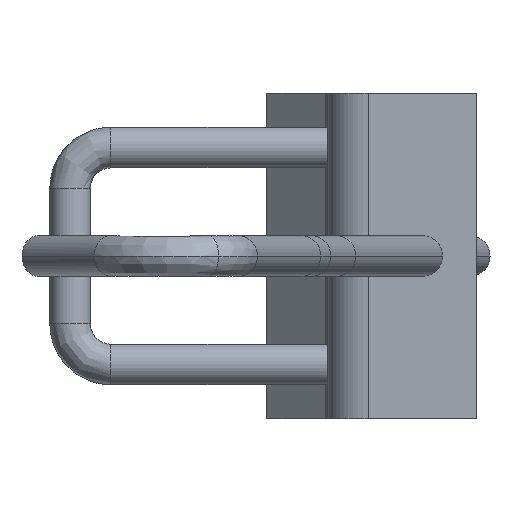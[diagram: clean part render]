
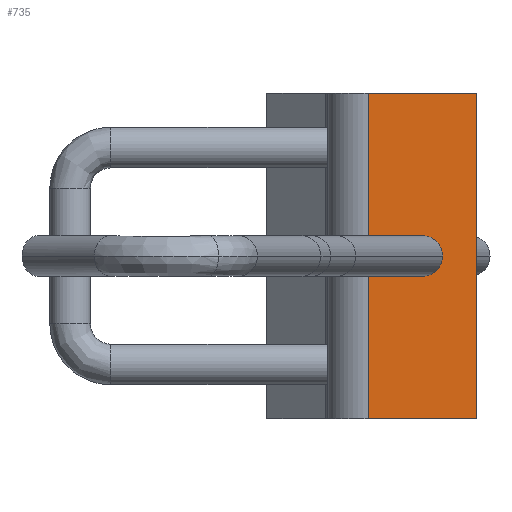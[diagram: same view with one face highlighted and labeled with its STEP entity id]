
A CAD part, left-side view. The second image highlights one B-rep face of the part: STEP entity #735.
In plain terms, the highlighted planar face has unit normal (-1, 0, 0).
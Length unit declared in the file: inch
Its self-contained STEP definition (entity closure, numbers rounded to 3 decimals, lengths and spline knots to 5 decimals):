
#523=EDGE_CURVE('',#1273,#1274,#1275,.T.);
#585=EDGE_CURVE('',#1368,#1369,#1370,.T.);
#621=EDGE_CURVE('',#1369,#1368,#1420,.T.);
#645=EDGE_CURVE('',#1452,#1186,#1453,.T.);
#663=EDGE_CURVE('',#1274,#1186,#1476,.T.);
#735=ADVANCED_FACE('',(#1573,#1574),#1575,.T.);
#791=EDGE_CURVE('',#1273,#1452,#1643,.T.);
#1186=VERTEX_POINT('',#2457);
#1273=VERTEX_POINT('',#2620);
#1274=VERTEX_POINT('',#2621);
#1275=LINE('',#2622,#2623);
#1368=VERTEX_POINT('',#2823);
#1369=VERTEX_POINT('',#2824);
#1370=ELLIPSE('',#2825,0.19058,0.1875);
#1420=ELLIPSE('',#2993,0.19058,0.1875);
#1452=VERTEX_POINT('',#3063);
#1453=LINE('',#3064,#3065);
#1476=LINE('',#3137,#3138);
#1573=FACE_OUTER_BOUND('',#3499,.T.);
#1574=FACE_BOUND('',#3500,.T.);
#1575=PLANE('',#3501);
#1643=LINE('',#3615,#3616);
#2457=CARTESIAN_POINT('',(3.52252,-0.14678,3.0));
#2620=CARTESIAN_POINT('',(3.52252,-1.14678,0.0));
#2621=CARTESIAN_POINT('',(3.52252,-1.14678,3.0));
#2622=CARTESIAN_POINT('',(3.52252,-1.14678,0.0));
#2623=VECTOR('',#4488,1.0);
#2823=CARTESIAN_POINT('',(3.52252,-0.83131,1.5));
#2824=CARTESIAN_POINT('',(3.52252,-0.45015,1.5));
#2825=AXIS2_PLACEMENT_3D('',#4595,#4596,#4597);
#2993=AXIS2_PLACEMENT_3D('',#4627,#4628,#4629);
#3063=CARTESIAN_POINT('',(3.52252,-0.14678,0.0));
#3064=CARTESIAN_POINT('',(3.52252,-0.14678,0.0));
#3065=VECTOR('',#4671,1.0);
#3137=CARTESIAN_POINT('',(3.52252,-1.14678,3.0));
#3138=VECTOR('',#4689,1.0);
#3499=EDGE_LOOP('',(#4797,#4798,#4799,#4800));
#3500=EDGE_LOOP('',(#4801,#4802));
#3501=AXIS2_PLACEMENT_3D('',#4803,#4804,#4805);
#3615=CARTESIAN_POINT('',(3.52252,-1.14678,0.0));
#3616=VECTOR('',#4901,1.0);
#4488=DIRECTION('',(0.0,0.0,1.0));
#4595=CARTESIAN_POINT('',(3.52252,-0.64073,1.5));
#4596=DIRECTION('',(-1.0,0.0,0.0));
#4597=DIRECTION('',(0.0,-1.0,0.0));
#4627=CARTESIAN_POINT('',(3.52252,-0.64073,1.5));
#4628=DIRECTION('',(-1.0,0.0,0.0));
#4629=DIRECTION('',(0.0,-1.0,0.0));
#4671=DIRECTION('',(0.0,0.0,1.0));
#4689=DIRECTION('',(0.0,1.0,0.0));
#4797=ORIENTED_EDGE('',*,*,#663,.T.);
#4798=ORIENTED_EDGE('',*,*,#645,.F.);
#4799=ORIENTED_EDGE('',*,*,#791,.F.);
#4800=ORIENTED_EDGE('',*,*,#523,.T.);
#4801=ORIENTED_EDGE('',*,*,#621,.F.);
#4802=ORIENTED_EDGE('',*,*,#585,.F.);
#4803=CARTESIAN_POINT('',(3.52252,-0.64678,0.0));
#4804=DIRECTION('',(-1.0,-0.0,0.0));
#4805=DIRECTION('',(0.0,-1.0,-0.0));
#4901=DIRECTION('',(0.0,1.0,0.0));
